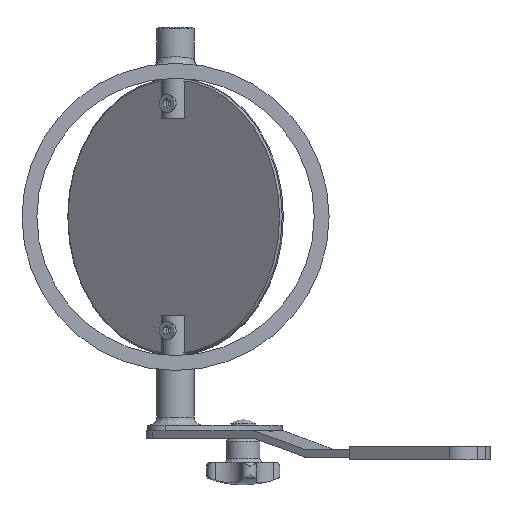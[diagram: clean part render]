
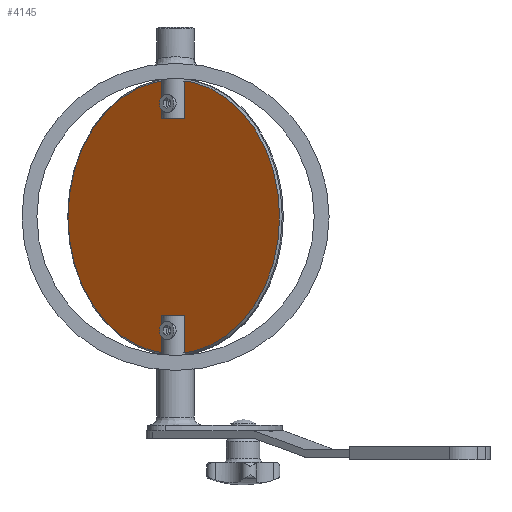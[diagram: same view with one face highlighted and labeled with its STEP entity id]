
A CAD part, front view. The second image highlights one B-rep face of the part: STEP entity #4145.
In plain terms, the highlighted planar face has unit normal (-0.634, -0.773, 0) as drawn and (0, 0, 1) by its records, which use the part's own axes.
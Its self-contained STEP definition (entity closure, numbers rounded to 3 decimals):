
#4072=CARTESIAN_POINT('',(91.557,0.,3.));
#4073=VERTEX_POINT('',#4072);
#4074=CARTESIAN_POINT('',(18.057,0.,3.));
#4075=DIRECTION('',(0.0,0.0,-1.0));
#4076=DIRECTION('',(-1.0,0.0,0.0));
#4077=AXIS2_PLACEMENT_3D('',#4074,#4075,#4076);
#4078=CIRCLE('',#4077,73.5);
#4079=EDGE_CURVE('',#4073,#4073,#4078,.T.);
#4115=CARTESIAN_POINT('',(18.057,0.,3.));
#4116=DIRECTION('',(0.0,0.0,-1.0));
#4117=DIRECTION('',(-1.0,0.0,0.0));
#4118=AXIS2_PLACEMENT_3D('',#4115,#4116,#4117);
#4119=PLANE('',#4118);
#4120=ORIENTED_EDGE('',*,*,#4079,.F.);
#4121=EDGE_LOOP('',(#4120));
#4122=FACE_OUTER_BOUND('',#4121,.T.);
#4123=CARTESIAN_POINT('',(-39.943,0.,3.));
#4124=VERTEX_POINT('',#4123);
#4125=CARTESIAN_POINT('',(-42.943,0.,3.));
#4126=DIRECTION('',(0.0,0.0,-1.0));
#4127=DIRECTION('',(-1.0,0.0,0.0));
#4128=AXIS2_PLACEMENT_3D('',#4125,#4126,#4127);
#4129=CIRCLE('',#4128,3.);
#4130=EDGE_CURVE('',#4124,#4124,#4129,.T.);
#4131=ORIENTED_EDGE('',*,*,#4130,.T.);
#4132=EDGE_LOOP('',(#4131));
#4133=FACE_BOUND('',#4132,.T.);
#4134=CARTESIAN_POINT('',(82.057,0.,3.));
#4135=VERTEX_POINT('',#4134);
#4136=CARTESIAN_POINT('',(79.057,0.,3.));
#4137=DIRECTION('',(0.0,0.0,-1.0));
#4138=DIRECTION('',(-1.0,0.0,0.0));
#4139=AXIS2_PLACEMENT_3D('',#4136,#4137,#4138);
#4140=CIRCLE('',#4139,3.);
#4141=EDGE_CURVE('',#4135,#4135,#4140,.T.);
#4142=ORIENTED_EDGE('',*,*,#4141,.T.);
#4143=EDGE_LOOP('',(#4142));
#4144=FACE_BOUND('',#4143,.T.);
#4145=ADVANCED_FACE('',(#4122,#4133,#4144),#4119,.F.);
